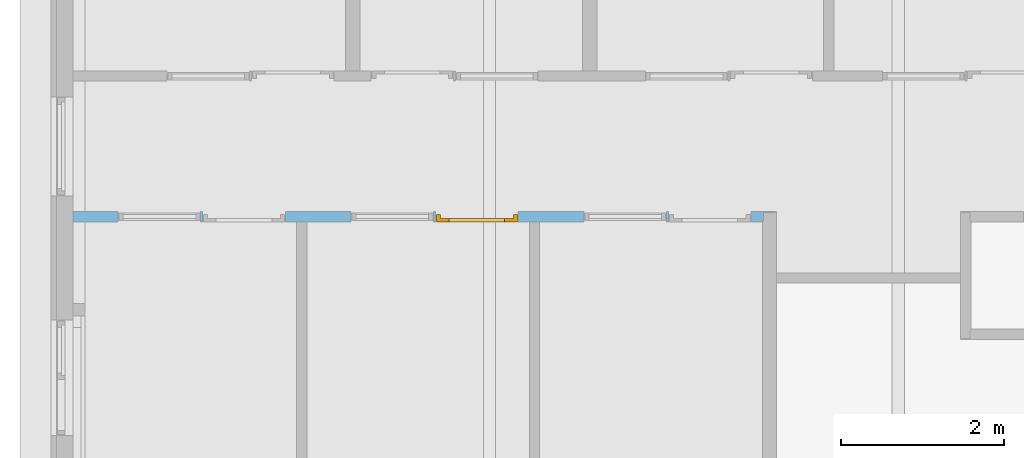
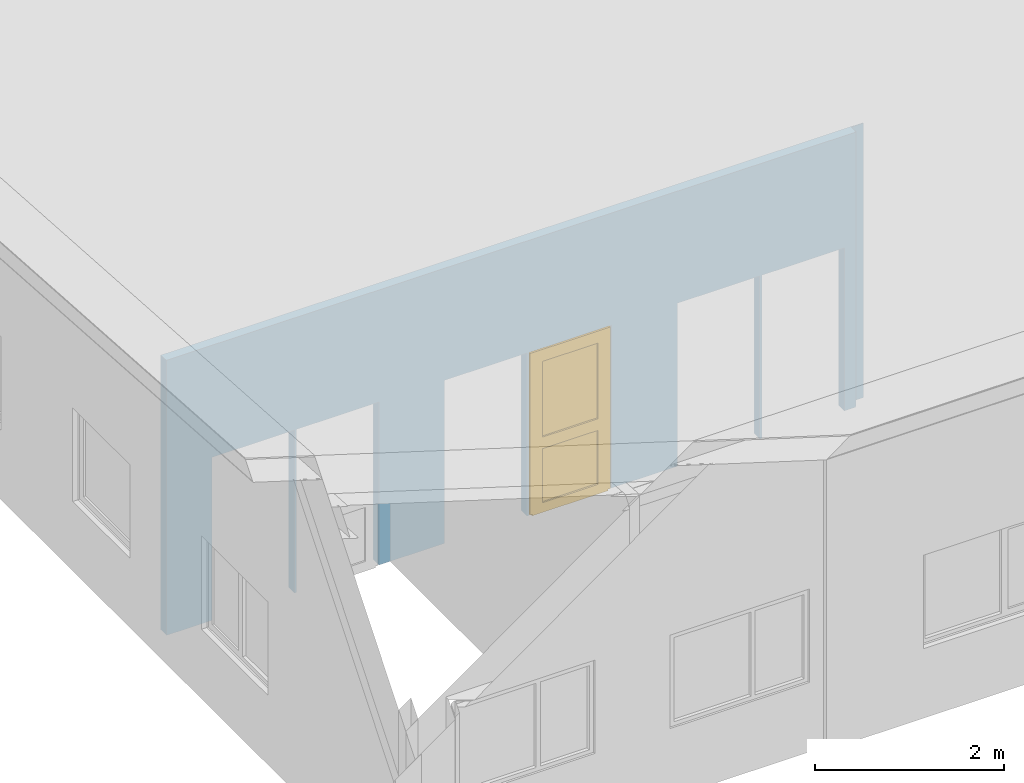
# One storey, part 10 of 37: 1 door, 6 openings, plus 1 element that does not belong to this part.
"""IFC2X3 building model written with IfcOpenShell, lengths in millimetres."""

from ifc_helpers import new_model, entity, si_unit, converted_unit, frame, frame_2d, origin, origin_with_axes, place, context, subcontext, project, spatial, polyline, rectangle, outline, extrude, clip, halfspace, faceted_brep, material, layer, layer_set, layer_usage, type_object, element, fill, save


model = new_model("IFC2X3")

# Units and contexts
model_context = context("Model", 3, precision=1e-05, world=origin())
plan_context = context("Plan", 3, precision=1e-05, world=origin())
body_context = subcontext(model_context, "Body", "Model", "MODEL_VIEW")
ifc_project = project(units=[si_unit("LENGTHUNIT", "METRE", prefix="MILLI"), converted_unit("PLANEANGLEUNIT", "DEGREE", entity("IfcPlaneAngleMeasure", 0.0174532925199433), si_unit("PLANEANGLEUNIT", "RADIAN"), dimensions=[0, 0, 0, 0, 0, 0, 0]), si_unit("AREAUNIT", "SQUARE_METRE"), si_unit("VOLUMEUNIT", "CUBIC_METRE")], contexts=[model_context, plan_context])

# Building, storey
building_placement = place(None, origin())
building = spatial("IfcBuilding", under=ifc_project, at=building_placement, Name="HEKF Administrasjonbygg", CompositionType="ELEMENT")
storey_placement = place(building_placement, frame((0.0, 0.0, 9900.0), z_axis=(0.0, 0.0, 1.0), x_axis=(1.0, 0.0, 0.0)))
storey = spatial("IfcBuildingStorey", under=building, at=storey_placement, Name="Plan 2", CompositionType="ELEMENT", Elevation=9900.0)

# Wall, openings, door
ifc_material_1 = material(Name="gips")
ifc_layer_1 = layer(ifc_material_1, 13.0)
ifc_material_2 = material(Name="riegel stål 100")
ifc_layer_2 = layer(ifc_material_2, 100.0000000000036)
ifc_material_3 = material(Name="gips")
ifc_layer_3 = layer(ifc_material_3, 13.00000000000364)
ifc_layer_set = layer_set([ifc_layer_1, ifc_layer_2, ifc_layer_3])
ifc_layer_usage = layer_usage(ifc_layer_set, "AXIS2", "POSITIVE", 0.0)
wall_placement = place(storey_placement, frame((9899.999999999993, -6924.999999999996, 0.0), z_axis=(0.0, 0.0, 1.0), x_axis=(1.0, -4.311934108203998e-16, 0.0)))
wall = element("IfcWallStandardCase", 1, at=wall_placement, inside=storey, material=ifc_layer_usage, context=body_context, shape_type="Clipping", body=[
    clip(extrude(outline(polyline([(0.0, 0.0), (8437.0, 0.0), (8437.0, 13.0), (8450.0, 13.00000000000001), (8450.0, 113.0), (8600.0, 113.0000000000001), (8600.0, 126.0000000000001), (-5.433036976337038e-14, 126.0), (0.0, 0.0)])), origin_with_axes(), (0.0, 0.0, 1.0), 3561.666666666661), halfspace(frame((0.0, 0.0, 3561.666666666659), z_axis=(1.067272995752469e-16, -0.06651901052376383, -0.9977851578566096), x_axis=(1.0, 0.0, 2.155967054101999e-16)), True)),
])
opening_1_placement = place(wall_placement, frame((6255.0, -2.728484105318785e-12, 0.0), z_axis=(0.0, 1.0, 0.0), x_axis=(0.0, 0.0, 1.0)))
element("IfcOpeningElement", 2, at=opening_1_placement, cuts=wall, Name="Window opening", ObjectType="Opening", context=body_context, shape_type="SweptSolid", body=[
    extrude(rectangle(XDim=2110.0, YDim=1010.0, at=frame_2d((1055.0, 505.0), x_axis=(1.0, 0.0))), origin_with_axes(), (0.0, 0.0, 1.0), 126.0),
])
opening_2_placement = place(wall_placement, frame((554.9999999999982, 0.0, 0.0), z_axis=(0.0, 1.0, 0.0), x_axis=(0.0, 0.0, 1.0)))
element("IfcOpeningElement", 3, at=opening_2_placement, cuts=wall, Name="Window opening", ObjectType="Opening", context=body_context, shape_type="SweptSolid", body=[
    extrude(rectangle(XDim=2110.0, YDim=1010.0, at=frame_2d((1055.0, 505.0), x_axis=(1.0, 0.0))), origin_with_axes(), (0.0, 0.0, 1.0), 126.0),
])
opening_3_placement = place(wall_placement, frame((3404.999999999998, -1.818989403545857e-12, 0.0), z_axis=(0.0, 1.0, 0.0), x_axis=(0.0, 0.0, 1.0)))
element("IfcOpeningElement", 4, at=opening_3_placement, cuts=wall, Name="Window opening", ObjectType="Opening", context=body_context, shape_type="SweptSolid", body=[
    extrude(rectangle(XDim=2110.0, YDim=1010.0, at=frame_2d((1055.0, 505.0), x_axis=(1.0, 0.0))), origin_with_axes(), (0.0, 0.0, 1.0), 126.0),
])
opening_4_placement = place(wall_placement, frame((7290.0, -3.637978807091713e-12, 0.0), z_axis=(0.0, 1.0, 0.0), x_axis=(0.0, 0.0, 1.0)))
element("IfcOpeningElement", 5, at=opening_4_placement, cuts=wall, Name="garasjeport med glassfelter:45x6", ObjectType="Opening", context=body_context, shape_type="SweptSolid", body=[
    extrude(rectangle(XDim=2110.0, YDim=1010.0, at=frame_2d((1055.0, 505.0), x_axis=(1.0, 0.0))), origin_with_axes(), (0.0, 0.0, 1.0), 126.0),
])
opening_5_placement = place(wall_placement, frame((4439.999999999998, -1.818989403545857e-12, 0.0), z_axis=(0.0, 1.0, 0.0), x_axis=(0.0, 0.0, 1.0)))
opening_5 = element("IfcOpeningElement", 6, at=opening_5_placement, cuts=wall, Name="garasjeport med glassfelter:45x6", ObjectType="Opening", context=body_context, shape_type="SweptSolid", body=[
    extrude(rectangle(XDim=2110.0, YDim=1010.0, at=frame_2d((1055.0, 505.0), x_axis=(1.0, 0.0))), origin_with_axes(), (0.0, 0.0, 1.0), 126.0000000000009),
])
opening_6_placement = place(wall_placement, frame((1589.999999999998, -9.094947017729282e-13, 0.0), z_axis=(0.0, 1.0, 0.0), x_axis=(0.0, 0.0, 1.0)))
element("IfcOpeningElement", 7, at=opening_6_placement, cuts=wall, Name="garasjeport med glassfelter:45x6", ObjectType="Opening", context=body_context, shape_type="SweptSolid", body=[
    extrude(rectangle(XDim=2110.0, YDim=1010.0, at=frame_2d((1055.0, 505.0), x_axis=(1.0, 0.0))), origin_with_axes(), (0.0, 0.0, 1.0), 126.0),
])
ifc_material_4 = material()
door_style = type_object("IfcDoorStyle", Name="D113", ConstructionType="NOTDEFINED", OperationType="USERDEFINED", ParameterTakesPrecedence=False, Sizeable=False)
door_placement = place(opening_5_placement, frame((0.0, 0.0, 0.0), z_axis=(1.0, 0.0, 0.0), x_axis=(0.0, 1.0, 0.0)))
door = element("IfcDoor", 8, at=door_placement, inside=storey, type_object=door_style, material=ifc_material_4, Name="D113", OverallHeight=2110.0, OverallWidth=1010.0, context=body_context, shape_type="Brep", body=[
    faceted_brep([(1000.0, 0.9999999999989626, 2090.0), (1000.0, 0.9999999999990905, -2.816687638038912e-15), (950.0, 0.9999999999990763, -2.816687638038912e-15), (950.0, 0.9999999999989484, 2090.0), (1000.0, 93.0, 2.816687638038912e-15), (1000.0, 92.99999999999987, 2090.0), (950.0, 92.99999999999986, 2090.0), (950.0, 92.99999999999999, 2.816687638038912e-15), (1000.0, 0.9999999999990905, -2.816687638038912e-15), (1000.0, 0.9999999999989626, 2090.0), (1000.0, 92.99999999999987, 2090.0), (1000.0, 93.0, 2.816687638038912e-15), (950.0, 0.9999999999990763, -2.816687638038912e-15), (1000.0, 0.9999999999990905, -2.816687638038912e-15), (1000.0, 93.0, 2.816687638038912e-15), (950.0, 92.99999999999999, 2.816687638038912e-15), (950.0, 0.9999999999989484, 2090.0), (950.0, 0.9999999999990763, -2.816687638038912e-15), (950.0, 92.99999999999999, 2.816687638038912e-15), (950.0, 92.99999999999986, 2090.0), (1000.0, 0.9999999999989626, 2090.0), (950.0, 0.9999999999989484, 2090.0), (950.0, 92.99999999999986, 2090.0), (1000.0, 92.99999999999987, 2090.0)], [[[0, 1, 2, 3]], [[4, 5, 6, 7]], [[8, 9, 10, 11]], [[12, 13, 14, 15]], [[16, 17, 18, 19]], [[20, 21, 22, 23]]], orient=[[False], [False], [False], [False], [False], [False]]),
    faceted_brep([(60.0, 0.9999999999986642, 2090.0), (60.0, 0.9999999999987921, -2.816687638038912e-15), (10.0, 0.9999999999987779, -2.816687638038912e-15), (10.0, 0.99999999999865, 2090.0), (60.0, 92.99999999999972, 2.816687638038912e-15), (60.0, 92.99999999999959, 2090.0), (10.0, 92.99999999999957, 2090.0), (10.0, 92.9999999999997, 2.816687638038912e-15), (60.0, 0.9999999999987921, -2.816687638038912e-15), (60.0, 0.9999999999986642, 2090.0), (60.0, 92.99999999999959, 2090.0), (60.0, 92.99999999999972, 2.816687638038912e-15), (10.0, 0.9999999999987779, -2.816687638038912e-15), (60.0, 0.9999999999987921, -2.816687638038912e-15), (60.0, 92.99999999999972, 2.816687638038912e-15), (10.0, 92.9999999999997, 2.816687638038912e-15), (10.0, 0.99999999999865, 2090.0), (10.0, 0.9999999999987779, -2.816687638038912e-15), (10.0, 92.9999999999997, 2.816687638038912e-15), (10.0, 92.99999999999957, 2090.0), (60.0, 0.9999999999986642, 2090.0), (10.0, 0.99999999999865, 2090.0), (10.0, 92.99999999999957, 2090.0), (60.0, 92.99999999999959, 2090.0)], [[[0, 1, 2, 3]], [[4, 5, 6, 7]], [[8, 9, 10, 11]], [[12, 13, 14, 15]], [[16, 17, 18, 19]], [[20, 21, 22, 23]]], orient=[[False], [False], [False], [False], [False], [False]]),
    faceted_brep([(950.0, 0.9999999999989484, 2090.0), (950.0, 0.9999999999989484, 2040.0), (60.00000000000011, 0.9999999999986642, 2040.0), (60.00000000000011, 0.9999999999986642, 2090.0), (950.0, 92.99999999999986, 2040.0), (950.0, 92.99999999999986, 2090.0), (60.00000000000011, 92.99999999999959, 2090.0), (60.00000000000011, 92.99999999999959, 2040.0), (950.0, 0.9999999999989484, 2040.0), (950.0, 0.9999999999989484, 2090.0), (950.0, 92.99999999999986, 2090.0), (950.0, 92.99999999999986, 2040.0), (60.00000000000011, 0.9999999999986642, 2040.0), (950.0, 0.9999999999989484, 2040.0), (950.0, 92.99999999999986, 2040.0), (60.00000000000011, 92.99999999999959, 2040.0), (60.00000000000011, 0.9999999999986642, 2090.0), (60.00000000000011, 0.9999999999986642, 2040.0), (60.00000000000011, 92.99999999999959, 2040.0), (60.00000000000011, 92.99999999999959, 2090.0), (950.0, 0.9999999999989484, 2090.0), (60.00000000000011, 0.9999999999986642, 2090.0), (60.00000000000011, 92.99999999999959, 2090.0), (950.0, 92.99999999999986, 2090.0)], [[[0, 1, 2, 3]], [[4, 5, 6, 7]], [[8, 9, 10, 11]], [[12, 13, 14, 15]], [[16, 17, 18, 19]], [[20, 21, 22, 23]]], orient=[[False], [False], [False], [False], [False], [False]]),
    faceted_brep([(970.0, 0.9999999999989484, 2060.0), (970.0, 0.9999999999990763, -20.0), (845.0, 0.9999999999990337, -20.0), (845.0, 0.9999999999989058, 2060.0), (970.0, 40.99999999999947, -20.0), (970.0, 40.99999999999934, 2060.0), (845.0, 40.9999999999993, 2060.0), (845.0, 40.99999999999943, -20.0), (970.0, 0.9999999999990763, -20.0), (970.0, 0.9999999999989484, 2060.0), (970.0, 40.99999999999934, 2060.0), (970.0, 40.99999999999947, -20.0), (845.0, 0.9999999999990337, -20.0), (970.0, 0.9999999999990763, -20.0), (970.0, 40.99999999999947, -20.0), (845.0, 40.99999999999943, -20.0), (845.0, 0.9999999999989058, 2060.0), (845.0, 0.9999999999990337, -20.0), (845.0, 40.99999999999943, -20.0), (845.0, 40.9999999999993, 2060.0), (970.0, 0.9999999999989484, 2060.0), (845.0, 0.9999999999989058, 2060.0), (845.0, 40.9999999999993, 2060.0), (970.0, 40.99999999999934, 2060.0)], [[[0, 1, 2, 3]], [[4, 5, 6, 7]], [[8, 9, 10, 11]], [[12, 13, 14, 15]], [[16, 17, 18, 19]], [[20, 21, 22, 23]]], orient=[[False], [False], [False], [False], [False], [False]]),
    faceted_brep([(165.0000000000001, 0.9999999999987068, 2060.0), (165.0000000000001, 0.9999999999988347, -20.0), (40.00000000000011, 0.9999999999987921, -20.0), (40.00000000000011, 0.9999999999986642, 2060.0), (165.0000000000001, 40.99999999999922, -20.0), (165.0000000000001, 40.99999999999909, 2060.0), (40.00000000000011, 40.99999999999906, 2060.0), (40.00000000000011, 40.99999999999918, -20.0), (165.0000000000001, 0.9999999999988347, -20.0), (165.0000000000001, 0.9999999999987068, 2060.0), (165.0000000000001, 40.99999999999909, 2060.0), (165.0000000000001, 40.99999999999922, -20.0), (40.00000000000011, 0.9999999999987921, -20.0), (165.0000000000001, 0.9999999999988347, -20.0), (165.0000000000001, 40.99999999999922, -20.0), (40.00000000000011, 40.99999999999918, -20.0), (40.00000000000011, 0.9999999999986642, 2060.0), (40.00000000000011, 0.9999999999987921, -20.0), (40.00000000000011, 40.99999999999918, -20.0), (40.00000000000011, 40.99999999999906, 2060.0), (165.0000000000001, 0.9999999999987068, 2060.0), (40.00000000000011, 0.9999999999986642, 2060.0), (40.00000000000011, 40.99999999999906, 2060.0), (165.0000000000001, 40.99999999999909, 2060.0)], [[[0, 1, 2, 3]], [[4, 5, 6, 7]], [[8, 9, 10, 11]], [[12, 13, 14, 15]], [[16, 17, 18, 19]], [[20, 21, 22, 23]]], orient=[[False], [False], [False], [False], [False], [False]]),
    faceted_brep([(845.0, 0.9999999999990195, 105.0), (845.0, 0.9999999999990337, -20.0), (165.0000000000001, 0.9999999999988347, -20.0), (165.0000000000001, 0.9999999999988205, 105.0), (845.0, 40.99999999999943, -20.0), (845.0, 40.99999999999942, 105.0), (165.0000000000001, 40.99999999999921, 105.0), (165.0000000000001, 40.99999999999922, -20.0), (845.0, 0.9999999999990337, -20.0), (845.0, 0.9999999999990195, 105.0), (845.0, 40.99999999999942, 105.0), (845.0, 40.99999999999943, -20.0), (165.0000000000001, 0.9999999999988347, -20.0), (845.0, 0.9999999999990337, -20.0), (845.0, 40.99999999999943, -20.0), (165.0000000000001, 40.99999999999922, -20.0), (165.0000000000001, 0.9999999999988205, 105.0), (165.0000000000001, 0.9999999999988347, -20.0), (165.0000000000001, 40.99999999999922, -20.0), (165.0000000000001, 40.99999999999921, 105.0), (845.0, 0.9999999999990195, 105.0), (165.0000000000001, 0.9999999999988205, 105.0), (165.0000000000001, 40.99999999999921, 105.0), (845.0, 40.99999999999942, 105.0)], [[[0, 1, 2, 3]], [[4, 5, 6, 7]], [[8, 9, 10, 11]], [[12, 13, 14, 15]], [[16, 17, 18, 19]], [[20, 21, 22, 23]]], orient=[[False], [False], [False], [False], [False], [False]]),
    faceted_brep([(845.0, 0.9999999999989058, 2060.0), (845.0, 0.99999999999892, 1935.0), (165.0000000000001, 0.999999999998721, 1935.0), (165.0000000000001, 0.9999999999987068, 2060.0), (845.0, 40.99999999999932, 1935.0), (845.0, 40.99999999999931, 2060.0), (165.0000000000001, 40.9999999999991, 2060.0), (165.0000000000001, 40.99999999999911, 1935.0), (845.0, 0.99999999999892, 1935.0), (845.0, 0.9999999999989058, 2060.0), (845.0, 40.99999999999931, 2060.0), (845.0, 40.99999999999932, 1935.0), (165.0000000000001, 0.999999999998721, 1935.0), (845.0, 0.99999999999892, 1935.0), (845.0, 40.99999999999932, 1935.0), (165.0000000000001, 40.99999999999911, 1935.0), (165.0000000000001, 0.9999999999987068, 2060.0), (165.0000000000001, 0.999999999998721, 1935.0), (165.0000000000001, 40.99999999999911, 1935.0), (165.0000000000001, 40.9999999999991, 2060.0), (845.0, 0.9999999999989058, 2060.0), (165.0000000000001, 0.9999999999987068, 2060.0), (165.0000000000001, 40.9999999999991, 2060.0), (845.0, 40.99999999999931, 2060.0)], [[[0, 1, 2, 3]], [[4, 5, 6, 7]], [[8, 9, 10, 11]], [[12, 13, 14, 15]], [[16, 17, 18, 19]], [[20, 21, 22, 23]]], orient=[[False], [False], [False], [False], [False], [False]]),
    faceted_brep([(845.0, 0.9999999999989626, 955.0), (845.0, 0.9999999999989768, 805.0), (165.0000000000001, 0.9999999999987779, 805.0), (165.0000000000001, 0.9999999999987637, 955.0), (845.0, 40.99999999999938, 805.0), (845.0, 40.99999999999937, 955.0), (165.0000000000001, 40.99999999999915, 955.0), (165.0000000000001, 40.99999999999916, 805.0), (845.0, 0.9999999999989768, 805.0), (845.0, 0.9999999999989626, 955.0), (845.0, 40.99999999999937, 955.0), (845.0, 40.99999999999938, 805.0), (165.0000000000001, 0.9999999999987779, 805.0), (845.0, 0.9999999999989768, 805.0), (845.0, 40.99999999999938, 805.0), (165.0000000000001, 40.99999999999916, 805.0), (165.0000000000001, 0.9999999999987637, 955.0), (165.0000000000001, 0.9999999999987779, 805.0), (165.0000000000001, 40.99999999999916, 805.0), (165.0000000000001, 40.99999999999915, 955.0), (845.0, 0.9999999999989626, 955.0), (165.0000000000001, 0.9999999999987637, 955.0), (165.0000000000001, 40.99999999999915, 955.0), (845.0, 40.99999999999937, 955.0)], [[[0, 1, 2, 3]], [[4, 5, 6, 7]], [[8, 9, 10, 11]], [[12, 13, 14, 15]], [[16, 17, 18, 19]], [[20, 21, 22, 23]]], orient=[[False], [False], [False], [False], [False], [False]]),
    faceted_brep([(845.0, 20.99999999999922, 105.0), (165.0000000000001, 20.99999999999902, 105.0), (165.0000000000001, 20.99999999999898, 805.0), (845.0, 20.99999999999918, 805.0), (845.0, 21.99999999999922, 105.0), (845.0, 21.99999999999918, 805.0), (165.0000000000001, 21.99999999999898, 805.0), (165.0000000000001, 21.99999999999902, 105.0), (845.0, 20.99999999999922, 105.0), (845.0, 21.99999999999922, 105.0), (165.0000000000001, 21.99999999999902, 105.0), (165.0000000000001, 20.99999999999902, 105.0), (165.0000000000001, 20.99999999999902, 105.0), (165.0000000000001, 21.99999999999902, 105.0), (165.0000000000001, 21.99999999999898, 805.0), (165.0000000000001, 20.99999999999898, 805.0), (165.0000000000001, 20.99999999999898, 805.0), (165.0000000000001, 21.99999999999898, 805.0), (845.0, 21.99999999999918, 805.0), (845.0, 20.99999999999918, 805.0), (845.0, 20.99999999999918, 805.0), (845.0, 21.99999999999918, 805.0), (845.0, 21.99999999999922, 105.0), (845.0, 20.99999999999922, 105.0)], [[[0, 1, 2, 3]], [[4, 5, 6, 7]], [[8, 9, 10, 11]], [[12, 13, 14, 15]], [[16, 17, 18, 19]], [[20, 21, 22, 23]]], orient=[[False], [False], [False], [False], [False], [False]]),
    faceted_brep([(845.0, 20.99999999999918, 955.0), (165.0000000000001, 20.99999999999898, 955.0), (165.0000000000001, 20.99999999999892, 1935.0), (845.0, 20.99999999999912, 1935.0), (845.0, 21.99999999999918, 955.0), (845.0, 21.99999999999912, 1935.0), (165.0000000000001, 21.99999999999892, 1935.0), (165.0000000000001, 21.99999999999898, 955.0), (845.0, 20.99999999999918, 955.0), (845.0, 21.99999999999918, 955.0), (165.0000000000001, 21.99999999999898, 955.0), (165.0000000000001, 20.99999999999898, 955.0), (165.0000000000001, 20.99999999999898, 955.0), (165.0000000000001, 21.99999999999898, 955.0), (165.0000000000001, 21.99999999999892, 1935.0), (165.0000000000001, 20.99999999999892, 1935.0), (165.0000000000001, 20.99999999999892, 1935.0), (165.0000000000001, 21.99999999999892, 1935.0), (845.0, 21.99999999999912, 1935.0), (845.0, 20.99999999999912, 1935.0), (845.0, 20.99999999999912, 1935.0), (845.0, 21.99999999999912, 1935.0), (845.0, 21.99999999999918, 955.0), (845.0, 20.99999999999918, 955.0)], [[[0, 1, 2, 3]], [[4, 5, 6, 7]], [[8, 9, 10, 11]], [[12, 13, 14, 15]], [[16, 17, 18, 19]], [[20, 21, 22, 23]]], orient=[[False], [False], [False], [False], [False], [False]]),
])
fill(opening_5, door)

save(model, "model.ifc")
